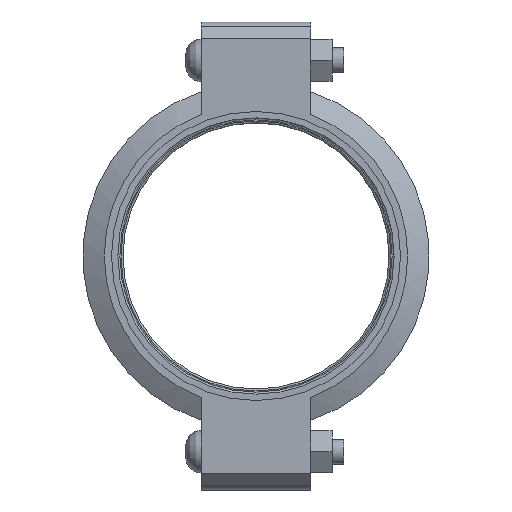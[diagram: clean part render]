
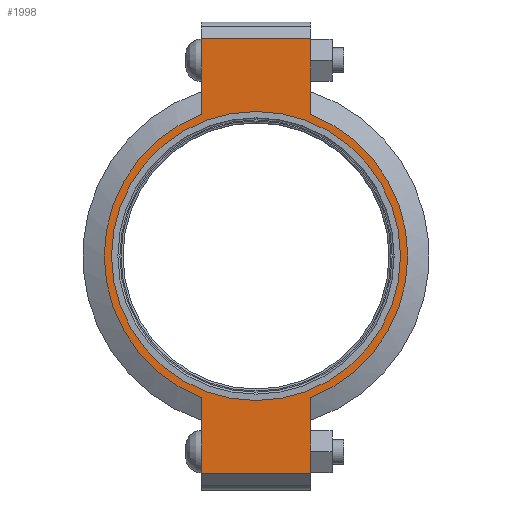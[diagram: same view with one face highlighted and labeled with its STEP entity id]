
A CAD part, left-side view. The second image highlights one B-rep face of the part: STEP entity #1998.
In plain terms, the highlighted planar face has unit normal (-1, 0, 0) as drawn and (0, 0, 1) by its records, which use the part's own axes.
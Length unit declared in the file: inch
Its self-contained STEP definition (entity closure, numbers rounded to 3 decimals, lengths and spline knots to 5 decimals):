
#160=LINE('',#3544,#257);
#168=LINE('',#3580,#265);
#175=LINE('',#3601,#272);
#184=LINE('',#3633,#281);
#185=LINE('',#3637,#282);
#186=LINE('',#3639,#283);
#257=VECTOR('',#2887,0.3937);
#265=VECTOR('',#2903,0.3937);
#272=VECTOR('',#2922,0.3937);
#281=VECTOR('',#2947,0.3937);
#282=VECTOR('',#2952,0.3937);
#283=VECTOR('',#2953,0.3937);
#340=FACE_BOUND('',#594,.T.);
#385=PLANE('',#2342);
#474=FACE_OUTER_BOUND('',#593,.T.);
#593=EDGE_LOOP('',(#1717,#1718,#1719,#1720,#1721,#1722,#1723,#1724));
#594=EDGE_LOOP('',(#1725));
#770=CIRCLE('',#2343,4.53);
#771=CIRCLE('',#2344,4.53);
#772=CIRCLE('',#2345,4.3125);
#938=VERTEX_POINT('',#3541);
#939=VERTEX_POINT('',#3543);
#950=VERTEX_POINT('',#3575);
#951=VERTEX_POINT('',#3579);
#958=VERTEX_POINT('',#3598);
#959=VERTEX_POINT('',#3600);
#969=VERTEX_POINT('',#3636);
#970=VERTEX_POINT('',#3638);
#971=VERTEX_POINT('',#3641);
#1187=EDGE_CURVE('',#939,#938,#160,.T.);
#1201=EDGE_CURVE('',#951,#950,#168,.T.);
#1211=EDGE_CURVE('',#959,#958,#175,.T.);
#1226=EDGE_CURVE('',#951,#938,#184,.T.);
#1227=EDGE_CURVE('',#950,#959,#770,.T.);
#1228=EDGE_CURVE('',#969,#958,#185,.T.);
#1229=EDGE_CURVE('',#969,#970,#186,.T.);
#1230=EDGE_CURVE('',#970,#939,#771,.T.);
#1231=EDGE_CURVE('',#971,#971,#772,.T.);
#1717=ORIENTED_EDGE('',*,*,#1226,.F.);
#1718=ORIENTED_EDGE('',*,*,#1201,.T.);
#1719=ORIENTED_EDGE('',*,*,#1227,.T.);
#1720=ORIENTED_EDGE('',*,*,#1211,.T.);
#1721=ORIENTED_EDGE('',*,*,#1228,.F.);
#1722=ORIENTED_EDGE('',*,*,#1229,.T.);
#1723=ORIENTED_EDGE('',*,*,#1230,.T.);
#1724=ORIENTED_EDGE('',*,*,#1187,.T.);
#1725=ORIENTED_EDGE('',*,*,#1231,.T.);
#1998=ADVANCED_FACE('',(#474,#340),#385,.T.);
#2342=AXIS2_PLACEMENT_3D('',#3634,#2948,#2949);
#2343=AXIS2_PLACEMENT_3D('',#3635,#2950,#2951);
#2344=AXIS2_PLACEMENT_3D('',#3640,#2954,#2955);
#2345=AXIS2_PLACEMENT_3D('',#3642,#2956,#2957);
#2887=DIRECTION('',(1.,0.,0.));
#2903=DIRECTION('',(-1.,0.,0.));
#2922=DIRECTION('',(-1.,0.,0.));
#2947=DIRECTION('',(0.,-1.,0.));
#2948=DIRECTION('center_axis',(0.,0.,1.));
#2949=DIRECTION('ref_axis',(-1.,0.,0.));
#2950=DIRECTION('center_axis',(0.,0.,1.));
#2951=DIRECTION('ref_axis',(1.,0.,0.));
#2952=DIRECTION('',(0.,1.,0.));
#2953=DIRECTION('',(1.,0.,0.));
#2954=DIRECTION('center_axis',(0.,0.,1.));
#2955=DIRECTION('ref_axis',(1.,0.,0.));
#2956=DIRECTION('center_axis',(0.,0.,-1.));
#2957=DIRECTION('ref_axis',(1.,0.,0.));
#3541=CARTESIAN_POINT('',(6.485,-1.63,1.16));
#3543=CARTESIAN_POINT('',(4.22658,-1.63,1.16));
#3544=CARTESIAN_POINT('',(6.985,-1.63,1.16));
#3575=CARTESIAN_POINT('',(4.22658,1.63,1.16));
#3579=CARTESIAN_POINT('',(6.485,1.63,1.16));
#3580=CARTESIAN_POINT('',(-6.985,1.63,1.16));
#3598=CARTESIAN_POINT('',(-6.485,1.63,1.16));
#3600=CARTESIAN_POINT('',(-4.22658,1.63,1.16));
#3601=CARTESIAN_POINT('',(-6.985,1.63,1.16));
#3633=CARTESIAN_POINT('',(6.485,-0.815,1.16));
#3634=CARTESIAN_POINT('Origin',(0.,0.,
1.16));
#3635=CARTESIAN_POINT('Origin',(0.,0.,1.16));
#3636=CARTESIAN_POINT('',(-6.485,-1.63,1.16));
#3637=CARTESIAN_POINT('',(-6.485,0.815,1.16));
#3638=CARTESIAN_POINT('',(-4.22658,-1.63,1.16));
#3639=CARTESIAN_POINT('',(6.985,-1.63,1.16));
#3640=CARTESIAN_POINT('Origin',(0.,0.,1.16));
#3641=CARTESIAN_POINT('',(-4.3125,0.,1.16));
#3642=CARTESIAN_POINT('Origin',(0.,0.,1.16));
